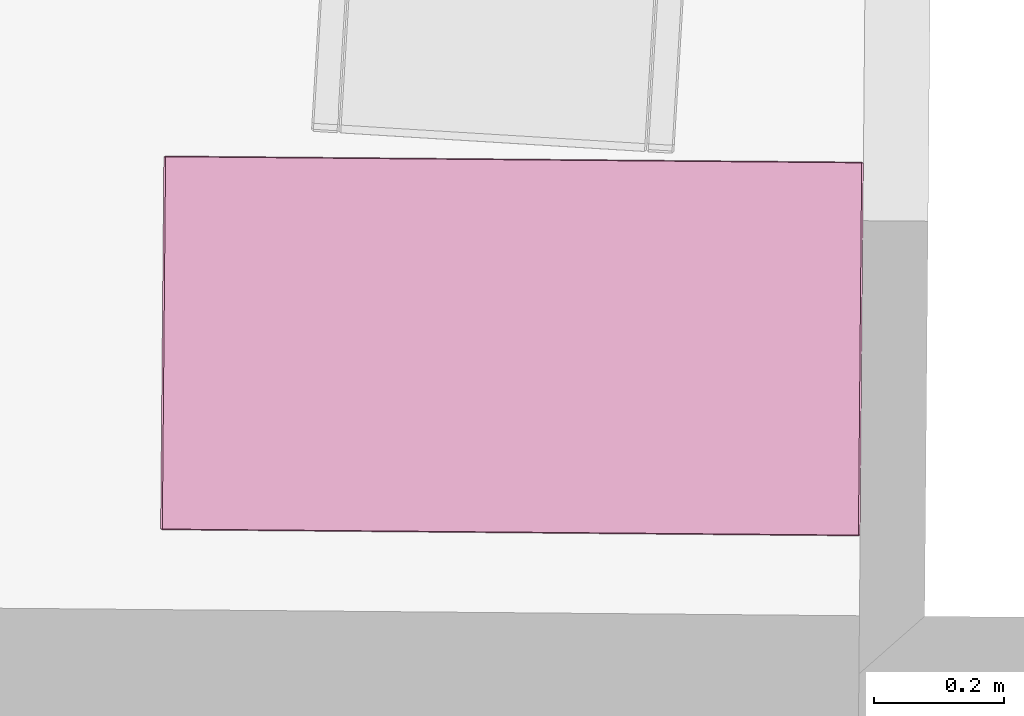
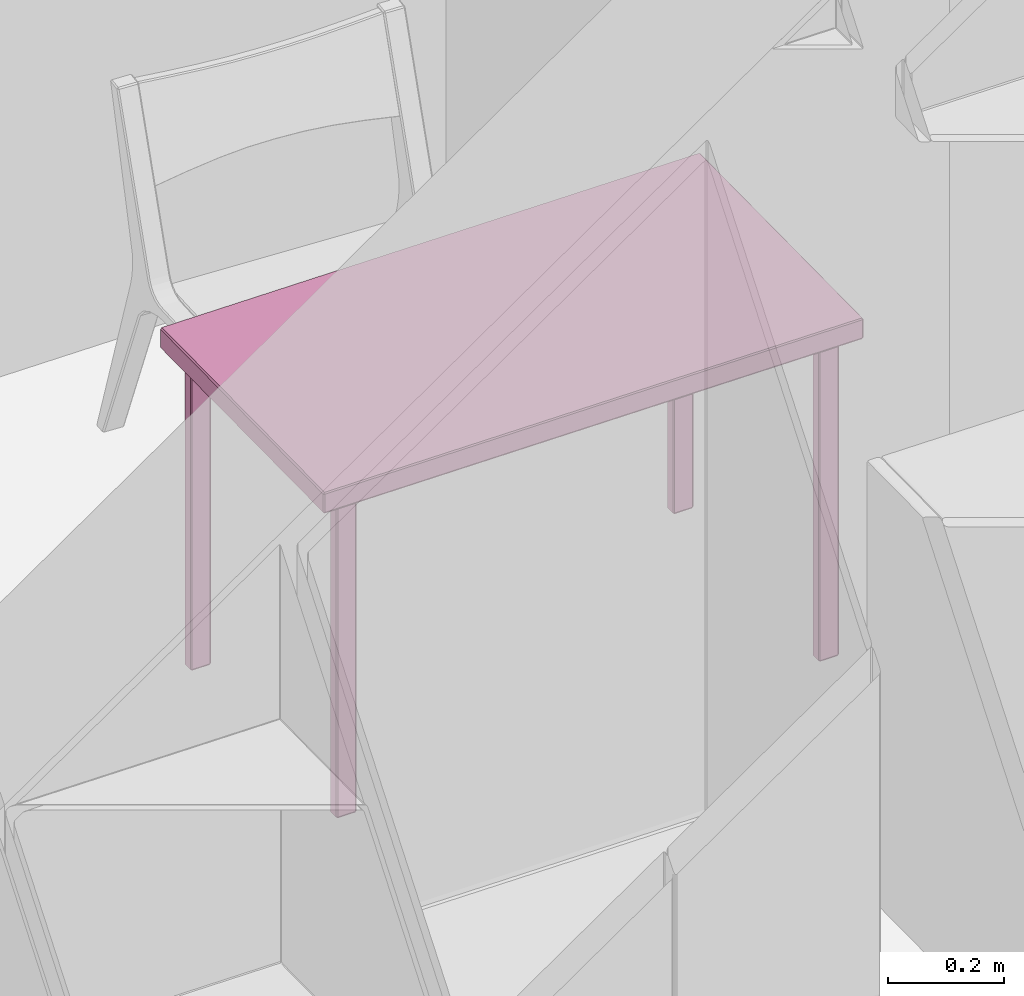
# One storey, part 7 of 7: 1 furniture element.
"""IFC4 building model written with IfcOpenShell, lengths in metres."""

from ifc_helpers import new_model, si_unit, direction, frame, origin_with_axes, place, context, project, spatial, polygons, type_object, element, save


model = new_model("IFC4")

# Units and contexts
model_context = context("Model", 3, precision=1e-05, world=origin_with_axes(), true_north=direction((-0.077, 0.997, 0.0)))
ifc_project = project(units=[si_unit("AREAUNIT", "SQUARE_METRE"), si_unit("LENGTHUNIT", "METRE")], contexts=[model_context])

# Site, building, storey, space
site_placement = place(None, origin_with_axes())
site = spatial("IfcSite", under=ifc_project, at=site_placement, Name="Site", CompositionType="ELEMENT")
building_placement = place(site_placement, origin_with_axes())
building = spatial("IfcBuilding", under=site, at=building_placement, Name="Building", CompositionType="ELEMENT")
storey_placement = place(building_placement, frame((0.0, 0.0, 2.86083245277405), z_axis=(0.0, 0.0, 1.0), x_axis=(1.0, 0.0, 0.0)))
storey = spatial("IfcBuildingStorey", under=building, at=storey_placement, Name="Story 1", CompositionType="ELEMENT", Elevation=2.86083245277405)
space_placement = place(storey_placement, frame((7.15167292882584, -1.61053688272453, 0.0), z_axis=(0.0, 0.0, 1.0), x_axis=(1.0, 0.0, 0.0)))
space = spatial("IfcSpace", under=storey, at=space_placement, Name="008", CompositionType="ELEMENT")

# Furniture
furniture_type = type_object("IfcFurnitureType", Name="44e54273-e89d-467f-87bd-4b55ef6c3ddf", AssemblyPlace="NOTDEFINED", PredefinedType="USERDEFINED")
furniture_placement = place(space_placement, frame((-0.532959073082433, 0.413190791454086, 0.356590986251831), z_axis=(0.0, 0.0, 0.999999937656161), x_axis=(0.0087854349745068, 0.99996137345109, 0.0)))
element("IfcFurniture", 1, at=furniture_placement, inside=space, type_object=furniture_type, Name="Table", ObjectType="Table", PredefinedType="USERDEFINED", context=model_context, shape_type="Tessellation", body=[
    polygons([(0.2855, 0.5366, 0.3152), (-0.2855, 0.5366, 0.3152), (0.2855, 0.5366, 0.3534), (-0.2855, 0.5366, 0.3534), (0.2855, 0.5366, 0.3534), (-0.2855, 0.5366, 0.3152), (0.2447, -0.4968, 0.3232), (0.2447, -0.4616, 0.3232), (0.2447, -0.4968, -0.3534), (0.2447, -0.4616, -0.3534), (0.2447, -0.4968, -0.3534), (0.2447, -0.4616, 0.3232), (0.265, -0.4995, 0.3232), (0.2462, -0.4995, 0.3232), (0.265, -0.4995, -0.3534), (0.2462, -0.4995, -0.3534), (0.265, -0.4995, -0.3534), (0.2462, -0.4995, 0.3232), (0.2664, -0.4616, 0.3232), (0.2664, -0.4968, 0.3232), (0.2664, -0.4616, -0.3534), (0.2664, -0.4968, -0.3534), (0.2664, -0.4616, -0.3534), (0.2664, -0.4968, 0.3232), (0.2462, -0.4589, 0.3232), (0.265, -0.4589, 0.3232), (0.2462, -0.4589, -0.3534), (0.265, -0.4589, -0.3534), (0.2462, -0.4589, -0.3534), (0.265, -0.4589, 0.3232), (0.2447, 0.4968, 0.3232), (0.2447, 0.4968, -0.3534), (0.2447, 0.4616, 0.3232), (0.2447, 0.4616, -0.3534), (0.2447, 0.4616, 0.3232), (0.2447, 0.4968, -0.3534), (0.265, 0.4995, 0.3232), (0.265, 0.4995, -0.3534), (0.2462, 0.4995, 0.3232), (0.2462, 0.4995, -0.3534), (0.2462, 0.4995, 0.3232), (0.265, 0.4995, -0.3534), (0.2664, 0.4616, 0.3232), (0.2664, 0.4616, -0.3534), (0.2664, 0.4968, 0.3232), (0.2664, 0.4968, -0.3534), (0.2664, 0.4968, 0.3232), (0.2664, 0.4616, -0.3534), (0.2462, 0.4589, 0.3232), (0.2462, 0.4589, -0.3534), (0.265, 0.4589, 0.3232), (0.265, 0.4589, -0.3534), (0.265, 0.4589, 0.3232), (0.2462, 0.4589, -0.3534), (0.2869, 0.5339, 0.3152), (0.2869, 0.5339, 0.3534), (0.2869, -0.5339, 0.3152), (0.2869, -0.5339, 0.3534), (0.2869, -0.5339, 0.3152), (0.2869, 0.5339, 0.3534), (-0.2869, 0.5339, 0.3534), (-0.2869, 0.5339, 0.3152), (-0.2869, -0.5339, 0.3534), (-0.2869, -0.5339, 0.3152), (-0.2869, -0.5339, 0.3534), (-0.2869, 0.5339, 0.3152), (-0.2447, -0.4968, 0.3232), (-0.2447, -0.4968, -0.3534), (-0.2447, -0.4616, 0.3232), (-0.2447, -0.4616, -0.3534), (-0.2447, -0.4616, 0.3232), (-0.2447, -0.4968, -0.3534), (-0.265, -0.4995, 0.3232), (-0.265, -0.4995, -0.3534), (-0.2462, -0.4995, 0.3232), (-0.2462, -0.4995, -0.3534), (-0.2462, -0.4995, 0.3232), (-0.265, -0.4995, -0.3534), (-0.2664, -0.4616, 0.3232), (-0.2664, -0.4616, -0.3534), (-0.2664, -0.4968, 0.3232), (-0.2664, -0.4968, -0.3534), (-0.2664, -0.4968, 0.3232), (-0.2664, -0.4616, -0.3534), (-0.2462, -0.4589, 0.3232), (-0.2462, -0.4589, -0.3534), (-0.265, -0.4589, 0.3232), (-0.265, -0.4589, -0.3534), (-0.265, -0.4589, 0.3232), (-0.2462, -0.4589, -0.3534), (-0.2447, 0.4968, 0.3232), (-0.2447, 0.4616, 0.3232), (-0.2447, 0.4968, -0.3534), (-0.2447, 0.4616, -0.3534), (-0.2447, 0.4968, -0.3534), (-0.2447, 0.4616, 0.3232), (-0.265, 0.4995, 0.3232), (-0.2462, 0.4995, 0.3232), (-0.265, 0.4995, -0.3534), (-0.2462, 0.4995, -0.3534), (-0.265, 0.4995, -0.3534), (-0.2462, 0.4995, 0.3232), (-0.2664, 0.4616, 0.3232), (-0.2664, 0.4968, 0.3232), (-0.2664, 0.4616, -0.3534), (-0.2664, 0.4968, -0.3534), (-0.2664, 0.4616, -0.3534), (-0.2664, 0.4968, 0.3232), (-0.2462, 0.4589, 0.3232), (-0.265, 0.4589, 0.3232), (-0.2462, 0.4589, -0.3534), (-0.265, 0.4589, -0.3534), (-0.2462, 0.4589, -0.3534), (-0.265, 0.4589, 0.3232), (-0.2855, 0.5339, 0.3566), (-0.2855, -0.5339, 0.3566), (0.2855, 0.5339, 0.3566), (0.2855, -0.5339, 0.3566), (0.2855, 0.5339, 0.3566), (-0.2855, -0.5339, 0.3566), (0.2855, -0.5366, 0.3152), (0.2855, -0.5366, 0.3534), (-0.2855, -0.5366, 0.3152), (-0.2855, -0.5366, 0.3534), (-0.2855, -0.5366, 0.3152), (0.2855, -0.5366, 0.3534), (0.2855, -0.5339, 0.3121), (-0.2855, -0.5339, 0.3121), (0.2855, 0.5339, 0.3121), (-0.2855, 0.5339, 0.3121), (0.2855, 0.5339, 0.3121), (-0.2855, -0.5339, 0.3121), (0.265, -0.4968, 0.3264), (0.265, -0.4616, 0.3264), (0.2462, -0.4968, 0.3264), (0.2462, -0.4616, 0.3264), (0.2462, -0.4968, 0.3264), (0.265, -0.4616, 0.3264), (0.265, -0.4616, -0.3566), (0.265, -0.4968, -0.3566), (0.2462, -0.4616, -0.3566), (0.2462, -0.4968, -0.3566), (0.2462, -0.4616, -0.3566), (0.265, -0.4968, -0.3566), (0.265, 0.4968, -0.3566), (0.265, 0.4616, -0.3566), (0.2462, 0.4968, -0.3566), (0.2462, 0.4616, -0.3566), (0.2462, 0.4968, -0.3566), (0.265, 0.4616, -0.3566), (0.265, 0.4616, 0.3264), (0.265, 0.4968, 0.3264), (0.2462, 0.4616, 0.3264), (0.2462, 0.4968, 0.3264), (0.2462, 0.4616, 0.3264), (0.265, 0.4968, 0.3264), (-0.265, -0.4968, -0.3566), (-0.265, -0.4616, -0.3566), (-0.2462, -0.4968, -0.3566), (-0.2462, -0.4616, -0.3566), (-0.2462, -0.4968, -0.3566), (-0.265, -0.4616, -0.3566), (-0.265, -0.4616, 0.3264), (-0.265, -0.4968, 0.3264), (-0.2462, -0.4616, 0.3264), (-0.2462, -0.4968, 0.3264), (-0.2462, -0.4616, 0.3264), (-0.265, -0.4968, 0.3264), (-0.265, 0.4968, 0.3264), (-0.265, 0.4616, 0.3264), (-0.2462, 0.4968, 0.3264), (-0.2462, 0.4616, 0.3264), (-0.2462, 0.4968, 0.3264), (-0.265, 0.4616, 0.3264), (-0.265, 0.4616, -0.3566), (-0.265, 0.4968, -0.3566), (-0.2462, 0.4616, -0.3566), (-0.2462, 0.4968, -0.3566), (-0.2462, 0.4616, -0.3566), (-0.265, 0.4968, -0.3566), (-0.2855, 0.5339, 0.3566), (-0.2855, 0.5366, 0.3534), (-0.2869, 0.5339, 0.3534), (0.2462, -0.4616, -0.3566), (0.2447, -0.4616, -0.3534), (0.2462, -0.4589, -0.3534), (0.2462, -0.4968, -0.3566), (0.2462, -0.4995, -0.3534), (0.2447, -0.4968, -0.3534), (0.265, -0.4968, -0.3566), (0.2664, -0.4968, -0.3534), (0.265, -0.4995, -0.3534), (0.265, -0.4616, -0.3566), (0.265, -0.4589, -0.3534), (0.2664, -0.4616, -0.3534), (0.2462, -0.4616, 0.3264), (0.2462, -0.4589, 0.3232), (0.2447, -0.4616, 0.3232), (0.2462, 0.4589, -0.3534), (0.2447, 0.4616, -0.3534), (0.2462, 0.4616, -0.3566), (0.2462, 0.4968, 0.3264), (0.2462, 0.4995, 0.3232), (0.2447, 0.4968, 0.3232), (0.265, 0.4968, 0.3264), (0.2664, 0.4968, 0.3232), (0.265, 0.4995, 0.3232), (0.265, 0.4616, 0.3264), (0.265, 0.4589, 0.3232), (0.2664, 0.4616, 0.3232), (0.2855, -0.5366, 0.3534), (0.2869, -0.5339, 0.3534), (0.2855, -0.5339, 0.3566), (0.2855, 0.5339, 0.3566), (0.2869, 0.5339, 0.3534), (0.2855, 0.5366, 0.3534), (-0.2855, -0.5366, 0.3152), (-0.2869, -0.5339, 0.3152), (-0.2855, -0.5339, 0.3121), (-0.2855, 0.5339, 0.3121), (-0.2869, 0.5339, 0.3152), (-0.2855, 0.5366, 0.3152), (-0.2462, -0.4589, -0.3534), (-0.2447, -0.4616, -0.3534), (-0.2462, -0.4616, -0.3566), (-0.2462, -0.4968, 0.3264), (-0.2462, -0.4995, 0.3232), (-0.2447, -0.4968, 0.3232), (-0.265, -0.4968, 0.3264), (-0.2664, -0.4968, 0.3232), (-0.265, -0.4995, 0.3232), (-0.265, -0.4616, 0.3264), (-0.265, -0.4589, 0.3232), (-0.2664, -0.4616, 0.3232), (-0.2462, 0.4616, -0.3566), (-0.2447, 0.4616, -0.3534), (-0.2462, 0.4589, -0.3534), (-0.2462, 0.4968, -0.3566), (-0.2462, 0.4995, -0.3534), (-0.2447, 0.4968, -0.3534), (-0.265, 0.4968, -0.3566), (-0.2664, 0.4968, -0.3534), (-0.265, 0.4995, -0.3534), (-0.265, 0.4616, -0.3566), (-0.265, 0.4589, -0.3534), (-0.2664, 0.4616, -0.3534), (-0.2462, 0.4616, 0.3264), (-0.2462, 0.4589, 0.3232), (-0.2447, 0.4616, 0.3232), (-0.2855, -0.5366, 0.3534), (-0.2855, -0.5339, 0.3566), (-0.2869, -0.5339, 0.3534), (0.2855, -0.5366, 0.3152), (0.2855, -0.5339, 0.3121), (0.2869, -0.5339, 0.3152), (0.2869, 0.5339, 0.3152), (0.2855, 0.5339, 0.3121), (0.2855, 0.5366, 0.3152), (0.265, -0.4589, 0.3232), (0.265, -0.4616, 0.3264), (0.2664, -0.4616, 0.3232), (0.2664, -0.4968, 0.3232), (0.265, -0.4968, 0.3264), (0.265, -0.4995, 0.3232), (0.2462, -0.4995, 0.3232), (0.2462, -0.4968, 0.3264), (0.2447, -0.4968, 0.3232), (0.265, 0.4589, -0.3534), (0.265, 0.4616, -0.3566), (0.2664, 0.4616, -0.3534), (0.2664, 0.4968, -0.3534), (0.265, 0.4968, -0.3566), (0.265, 0.4995, -0.3534), (0.2462, 0.4995, -0.3534), (0.2462, 0.4968, -0.3566), (0.2447, 0.4968, -0.3534), (0.2462, 0.4589, 0.3232), (0.2462, 0.4616, 0.3264), (0.2447, 0.4616, 0.3232), (-0.265, -0.4589, -0.3534), (-0.265, -0.4616, -0.3566), (-0.2664, -0.4616, -0.3534), (-0.2664, -0.4968, -0.3534), (-0.265, -0.4968, -0.3566), (-0.265, -0.4995, -0.3534), (-0.2462, -0.4995, -0.3534), (-0.2462, -0.4968, -0.3566), (-0.2447, -0.4968, -0.3534), (-0.2462, -0.4589, 0.3232), (-0.2462, -0.4616, 0.3264), (-0.2447, -0.4616, 0.3232), (-0.265, 0.4589, 0.3232), (-0.265, 0.4616, 0.3264), (-0.2664, 0.4616, 0.3232), (-0.2664, 0.4968, 0.3232), (-0.265, 0.4968, 0.3264), (-0.265, 0.4995, 0.3232), (-0.2462, 0.4995, 0.3232), (-0.2462, 0.4968, 0.3264), (-0.2447, 0.4968, 0.3232), (-0.2855, 0.5366, 0.3534), (-0.2855, 0.5366, 0.3152), (-0.2869, 0.5339, 0.3534), (-0.2869, 0.5339, 0.3152), (-0.2869, 0.5339, 0.3534), (-0.2855, 0.5366, 0.3152), (-0.2855, 0.5366, 0.3152), (0.2855, 0.5366, 0.3152), (-0.2855, 0.5339, 0.3121), (0.2855, 0.5339, 0.3121), (-0.2855, 0.5339, 0.3121), (0.2855, 0.5366, 0.3152), (0.2855, 0.5366, 0.3152), (0.2855, 0.5366, 0.3534), (0.2869, 0.5339, 0.3152), (0.2869, 0.5339, 0.3534), (0.2869, 0.5339, 0.3152), (0.2855, 0.5366, 0.3534), (0.2855, 0.5366, 0.3534), (-0.2855, 0.5366, 0.3534), (0.2855, 0.5339, 0.3566), (-0.2855, 0.5339, 0.3566), (0.2855, 0.5339, 0.3566), (-0.2855, 0.5366, 0.3534), (0.2447, -0.4616, -0.3534), (0.2447, -0.4616, 0.3232), (0.2462, -0.4589, -0.3534), (0.2462, -0.4589, 0.3232), (0.2462, -0.4589, -0.3534), (0.2447, -0.4616, 0.3232), (0.2447, -0.4616, 0.3232), (0.2447, -0.4968, 0.3232), (0.2462, -0.4616, 0.3264), (0.2462, -0.4968, 0.3264), (0.2462, -0.4616, 0.3264), (0.2447, -0.4968, 0.3232), (0.2447, -0.4968, 0.3232), (0.2447, -0.4968, -0.3534), (0.2462, -0.4995, 0.3232), (0.2462, -0.4995, -0.3534), (0.2462, -0.4995, 0.3232), (0.2447, -0.4968, -0.3534), (0.2447, -0.4968, -0.3534), (0.2447, -0.4616, -0.3534), (0.2462, -0.4968, -0.3566), (0.2462, -0.4616, -0.3566), (0.2462, -0.4968, -0.3566), (0.2447, -0.4616, -0.3534), (0.2462, -0.4995, 0.3232), (0.265, -0.4995, 0.3232), (0.2462, -0.4968, 0.3264), (0.265, -0.4968, 0.3264), (0.2462, -0.4968, 0.3264), (0.265, -0.4995, 0.3232), (0.265, -0.4995, 0.3232), (0.265, -0.4995, -0.3534), (0.2664, -0.4968, 0.3232), (0.2664, -0.4968, -0.3534), (0.2664, -0.4968, 0.3232), (0.265, -0.4995, -0.3534), (0.265, -0.4995, -0.3534), (0.2462, -0.4995, -0.3534), (0.265, -0.4968, -0.3566), (0.2462, -0.4968, -0.3566), (0.265, -0.4968, -0.3566), (0.2462, -0.4995, -0.3534), (0.2664, -0.4968, 0.3232), (0.2664, -0.4616, 0.3232), (0.265, -0.4968, 0.3264), (0.265, -0.4616, 0.3264), (0.265, -0.4968, 0.3264), (0.2664, -0.4616, 0.3232), (0.2664, -0.4616, 0.3232), (0.2664, -0.4616, -0.3534), (0.265, -0.4589, 0.3232), (0.265, -0.4589, -0.3534), (0.265, -0.4589, 0.3232), (0.2664, -0.4616, -0.3534), (0.2664, -0.4616, -0.3534), (0.2664, -0.4968, -0.3534), (0.265, -0.4616, -0.3566), (0.265, -0.4968, -0.3566), (0.265, -0.4616, -0.3566), (0.2664, -0.4968, -0.3534), (0.265, -0.4589, 0.3232), (0.2462, -0.4589, 0.3232), (0.265, -0.4616, 0.3264), (0.2462, -0.4616, 0.3264), (0.265, -0.4616, 0.3264), (0.2462, -0.4589, 0.3232), (0.2462, -0.4589, -0.3534), (0.265, -0.4589, -0.3534), (0.2462, -0.4616, -0.3566), (0.265, -0.4616, -0.3566), (0.2462, -0.4616, -0.3566), (0.265, -0.4589, -0.3534), (0.2447, 0.4616, -0.3534), (0.2447, 0.4968, -0.3534), (0.2462, 0.4616, -0.3566), (0.2462, 0.4968, -0.3566), (0.2462, 0.4616, -0.3566), (0.2447, 0.4968, -0.3534), (0.2447, 0.4968, -0.3534), (0.2447, 0.4968, 0.3232), (0.2462, 0.4995, -0.3534), (0.2462, 0.4995, 0.3232), (0.2462, 0.4995, -0.3534), (0.2447, 0.4968, 0.3232), (0.2447, 0.4968, 0.3232), (0.2447, 0.4616, 0.3232), (0.2462, 0.4968, 0.3264), (0.2462, 0.4616, 0.3264), (0.2462, 0.4968, 0.3264), (0.2447, 0.4616, 0.3232), (0.2447, 0.4616, 0.3232), (0.2447, 0.4616, -0.3534), (0.2462, 0.4589, 0.3232), (0.2462, 0.4589, -0.3534), (0.2462, 0.4589, 0.3232), (0.2447, 0.4616, -0.3534), (0.2462, 0.4995, -0.3534), (0.265, 0.4995, -0.3534), (0.2462, 0.4968, -0.3566), (0.265, 0.4968, -0.3566), (0.2462, 0.4968, -0.3566), (0.265, 0.4995, -0.3534), (0.265, 0.4995, -0.3534), (0.265, 0.4995, 0.3232), (0.2664, 0.4968, -0.3534), (0.2664, 0.4968, 0.3232), (0.2664, 0.4968, -0.3534), (0.265, 0.4995, 0.3232), (0.265, 0.4995, 0.3232), (0.2462, 0.4995, 0.3232), (0.265, 0.4968, 0.3264), (0.2462, 0.4968, 0.3264), (0.265, 0.4968, 0.3264), (0.2462, 0.4995, 0.3232), (0.2664, 0.4968, -0.3534), (0.2664, 0.4616, -0.3534), (0.265, 0.4968, -0.3566), (0.265, 0.4616, -0.3566), (0.265, 0.4968, -0.3566), (0.2664, 0.4616, -0.3534), (0.2664, 0.4616, -0.3534), (0.2664, 0.4616, 0.3232), (0.265, 0.4589, -0.3534), (0.265, 0.4589, 0.3232), (0.265, 0.4589, -0.3534), (0.2664, 0.4616, 0.3232), (0.2664, 0.4616, 0.3232), (0.2664, 0.4968, 0.3232), (0.265, 0.4616, 0.3264), (0.265, 0.4968, 0.3264), (0.265, 0.4616, 0.3264), (0.2664, 0.4968, 0.3232), (0.265, 0.4589, -0.3534), (0.2462, 0.4589, -0.3534), (0.265, 0.4616, -0.3566), (0.2462, 0.4616, -0.3566), (0.265, 0.4616, -0.3566), (0.2462, 0.4589, -0.3534), (0.2462, 0.4589, 0.3232), (0.265, 0.4589, 0.3232), (0.2462, 0.4616, 0.3264), (0.265, 0.4616, 0.3264), (0.2462, 0.4616, 0.3264), (0.265, 0.4589, 0.3232), (0.2869, -0.5339, 0.3534), (0.2869, 0.5339, 0.3534), (0.2855, -0.5339, 0.3566), (0.2855, 0.5339, 0.3566), (0.2855, -0.5339, 0.3566), (0.2869, 0.5339, 0.3534), (0.2869, 0.5339, 0.3152), (0.2869, -0.5339, 0.3152), (0.2855, 0.5339, 0.3121), (0.2855, -0.5339, 0.3121), (0.2855, 0.5339, 0.3121), (0.2869, -0.5339, 0.3152), (0.2869, -0.5339, 0.3152), (0.2869, -0.5339, 0.3534), (0.2855, -0.5366, 0.3152), (0.2855, -0.5366, 0.3534), (0.2855, -0.5366, 0.3152), (0.2869, -0.5339, 0.3534), (-0.2869, -0.5339, 0.3152), (-0.2869, 0.5339, 0.3152), (-0.2855, -0.5339, 0.3121), (-0.2855, 0.5339, 0.3121), (-0.2855, -0.5339, 0.3121), (-0.2869, 0.5339, 0.3152), (-0.2869, 0.5339, 0.3534), (-0.2869, -0.5339, 0.3534), (-0.2855, 0.5339, 0.3566), (-0.2855, -0.5339, 0.3566), (-0.2855, 0.5339, 0.3566), (-0.2869, -0.5339, 0.3534), (-0.2869, -0.5339, 0.3534), (-0.2869, -0.5339, 0.3152), (-0.2855, -0.5366, 0.3534), (-0.2855, -0.5366, 0.3152), (-0.2855, -0.5366, 0.3534), (-0.2869, -0.5339, 0.3152), (-0.2447, -0.4616, -0.3534), (-0.2447, -0.4968, -0.3534), (-0.2462, -0.4616, -0.3566), (-0.2462, -0.4968, -0.3566), (-0.2462, -0.4616, -0.3566), (-0.2447, -0.4968, -0.3534), (-0.2447, -0.4968, -0.3534), (-0.2447, -0.4968, 0.3232), (-0.2462, -0.4995, -0.3534), (-0.2462, -0.4995, 0.3232), (-0.2462, -0.4995, -0.3534), (-0.2447, -0.4968, 0.3232), (-0.2447, -0.4968, 0.3232), (-0.2447, -0.4616, 0.3232), (-0.2462, -0.4968, 0.3264), (-0.2462, -0.4616, 0.3264), (-0.2462, -0.4968, 0.3264), (-0.2447, -0.4616, 0.3232), (-0.2447, -0.4616, 0.3232), (-0.2447, -0.4616, -0.3534), (-0.2462, -0.4589, 0.3232), (-0.2462, -0.4589, -0.3534), (-0.2462, -0.4589, 0.3232), (-0.2447, -0.4616, -0.3534), (-0.2462, -0.4995, -0.3534), (-0.265, -0.4995, -0.3534), (-0.2462, -0.4968, -0.3566), (-0.265, -0.4968, -0.3566), (-0.2462, -0.4968, -0.3566), (-0.265, -0.4995, -0.3534), (-0.265, -0.4995, -0.3534), (-0.265, -0.4995, 0.3232), (-0.2664, -0.4968, -0.3534), (-0.2664, -0.4968, 0.3232), (-0.2664, -0.4968, -0.3534), (-0.265, -0.4995, 0.3232), (-0.265, -0.4995, 0.3232), (-0.2462, -0.4995, 0.3232), (-0.265, -0.4968, 0.3264), (-0.2462, -0.4968, 0.3264), (-0.265, -0.4968, 0.3264), (-0.2462, -0.4995, 0.3232), (-0.2664, -0.4968, -0.3534), (-0.2664, -0.4616, -0.3534), (-0.265, -0.4968, -0.3566), (-0.265, -0.4616, -0.3566), (-0.265, -0.4968, -0.3566), (-0.2664, -0.4616, -0.3534), (-0.2664, -0.4616, -0.3534), (-0.2664, -0.4616, 0.3232), (-0.265, -0.4589, -0.3534), (-0.265, -0.4589, 0.3232), (-0.265, -0.4589, -0.3534), (-0.2664, -0.4616, 0.3232), (-0.2664, -0.4616, 0.3232), (-0.2664, -0.4968, 0.3232), (-0.265, -0.4616, 0.3264), (-0.265, -0.4968, 0.3264), (-0.265, -0.4616, 0.3264), (-0.2664, -0.4968, 0.3232), (-0.265, -0.4589, -0.3534), (-0.2462, -0.4589, -0.3534), (-0.265, -0.4616, -0.3566), (-0.2462, -0.4616, -0.3566), (-0.265, -0.4616, -0.3566), (-0.2462, -0.4589, -0.3534), (-0.2462, -0.4589, 0.3232), (-0.265, -0.4589, 0.3232), (-0.2462, -0.4616, 0.3264), (-0.265, -0.4616, 0.3264), (-0.2462, -0.4616, 0.3264), (-0.265, -0.4589, 0.3232), (-0.2447, 0.4616, -0.3534), (-0.2447, 0.4616, 0.3232), (-0.2462, 0.4589, -0.3534), (-0.2462, 0.4589, 0.3232), (-0.2462, 0.4589, -0.3534), (-0.2447, 0.4616, 0.3232), (-0.2447, 0.4616, 0.3232), (-0.2447, 0.4968, 0.3232), (-0.2462, 0.4616, 0.3264), (-0.2462, 0.4968, 0.3264), (-0.2462, 0.4616, 0.3264), (-0.2447, 0.4968, 0.3232), (-0.2447, 0.4968, 0.3232), (-0.2447, 0.4968, -0.3534), (-0.2462, 0.4995, 0.3232), (-0.2462, 0.4995, -0.3534), (-0.2462, 0.4995, 0.3232), (-0.2447, 0.4968, -0.3534), (-0.2447, 0.4968, -0.3534), (-0.2447, 0.4616, -0.3534), (-0.2462, 0.4968, -0.3566), (-0.2462, 0.4616, -0.3566), (-0.2462, 0.4968, -0.3566), (-0.2447, 0.4616, -0.3534), (-0.2462, 0.4995, 0.3232), (-0.265, 0.4995, 0.3232), (-0.2462, 0.4968, 0.3264), (-0.265, 0.4968, 0.3264), (-0.2462, 0.4968, 0.3264), (-0.265, 0.4995, 0.3232), (-0.265, 0.4995, 0.3232), (-0.265, 0.4995, -0.3534), (-0.2664, 0.4968, 0.3232), (-0.2664, 0.4968, -0.3534), (-0.2664, 0.4968, 0.3232), (-0.265, 0.4995, -0.3534), (-0.265, 0.4995, -0.3534), (-0.2462, 0.4995, -0.3534), (-0.265, 0.4968, -0.3566), (-0.2462, 0.4968, -0.3566), (-0.265, 0.4968, -0.3566), (-0.2462, 0.4995, -0.3534), (-0.2664, 0.4968, 0.3232), (-0.2664, 0.4616, 0.3232), (-0.265, 0.4968, 0.3264), (-0.265, 0.4616, 0.3264), (-0.265, 0.4968, 0.3264), (-0.2664, 0.4616, 0.3232), (-0.2664, 0.4616, 0.3232), (-0.2664, 0.4616, -0.3534), (-0.265, 0.4589, 0.3232), (-0.265, 0.4589, -0.3534), (-0.265, 0.4589, 0.3232), (-0.2664, 0.4616, -0.3534), (-0.2664, 0.4616, -0.3534), (-0.2664, 0.4968, -0.3534), (-0.265, 0.4616, -0.3566), (-0.265, 0.4968, -0.3566), (-0.265, 0.4616, -0.3566), (-0.2664, 0.4968, -0.3534), (-0.265, 0.4589, 0.3232), (-0.2462, 0.4589, 0.3232), (-0.265, 0.4616, 0.3264), (-0.2462, 0.4616, 0.3264), (-0.265, 0.4616, 0.3264), (-0.2462, 0.4589, 0.3232), (-0.2462, 0.4589, -0.3534), (-0.265, 0.4589, -0.3534), (-0.2462, 0.4616, -0.3566), (-0.265, 0.4616, -0.3566), (-0.2462, 0.4616, -0.3566), (-0.265, 0.4589, -0.3534), (0.2855, -0.5339, 0.3566), (-0.2855, -0.5339, 0.3566), (0.2855, -0.5366, 0.3534), (-0.2855, -0.5366, 0.3534), (0.2855, -0.5366, 0.3534), (-0.2855, -0.5339, 0.3566), (0.2855, -0.5366, 0.3152), (-0.2855, -0.5366, 0.3152), (0.2855, -0.5339, 0.3121), (-0.2855, -0.5339, 0.3121), (0.2855, -0.5339, 0.3121), (-0.2855, -0.5366, 0.3152)], [[[1, 2, 3]], [[4, 5, 6]], [[7, 8, 9]], [[10, 11, 12]], [[13, 14, 15]], [[16, 17, 18]], [[19, 20, 21]], [[22, 23, 24]], [[25, 26, 27]], [[28, 29, 30]], [[31, 32, 33]], [[34, 35, 36]], [[37, 38, 39]], [[40, 41, 42]], [[43, 44, 45]], [[46, 47, 48]], [[49, 50, 51]], [[52, 53, 54]], [[55, 56, 57]], [[58, 59, 60]], [[61, 62, 63]], [[64, 65, 66]], [[67, 68, 69]], [[70, 71, 72]], [[73, 74, 75]], [[76, 77, 78]], [[79, 80, 81]], [[82, 83, 84]], [[85, 86, 87]], [[88, 89, 90]], [[91, 92, 93]], [[94, 95, 96]], [[97, 98, 99]], [[100, 101, 102]], [[103, 104, 105]], [[106, 107, 108]], [[109, 110, 111]], [[112, 113, 114]], [[115, 116, 117]], [[118, 119, 120]], [[121, 122, 123]], [[124, 125, 126]], [[127, 128, 129]], [[130, 131, 132]], [[133, 134, 135]], [[136, 137, 138]], [[139, 140, 141]], [[142, 143, 144]], [[145, 146, 147]], [[148, 149, 150]], [[151, 152, 153]], [[154, 155, 156]], [[157, 158, 159]], [[160, 161, 162]], [[163, 164, 165]], [[166, 167, 168]], [[169, 170, 171]], [[172, 173, 174]], [[175, 176, 177]], [[178, 179, 180]], [[181, 182, 183]], [[184, 185, 186]], [[187, 188, 189]], [[190, 191, 192]], [[193, 194, 195]], [[196, 197, 198]], [[199, 200, 201]], [[202, 203, 204]], [[205, 206, 207]], [[208, 209, 210]], [[211, 212, 213]], [[214, 215, 216]], [[217, 218, 219]], [[220, 221, 222]], [[223, 224, 225]], [[226, 227, 228]], [[229, 230, 231]], [[232, 233, 234]], [[235, 236, 237]], [[238, 239, 240]], [[241, 242, 243]], [[244, 245, 246]], [[247, 248, 249]], [[250, 251, 252]], [[253, 254, 255]], [[256, 257, 258]], [[259, 260, 261]], [[262, 263, 264]], [[265, 266, 267]], [[268, 269, 270]], [[271, 272, 273]], [[274, 275, 276]], [[277, 278, 279]], [[280, 281, 282]], [[283, 284, 285]], [[286, 287, 288]], [[289, 290, 291]], [[292, 293, 294]], [[295, 296, 297]], [[298, 299, 300]], [[301, 302, 303]], [[304, 305, 306]], [[307, 308, 309]], [[310, 311, 312]], [[313, 314, 315]], [[316, 317, 318]], [[319, 320, 321]], [[322, 323, 324]], [[325, 326, 327]], [[328, 329, 330]], [[331, 332, 333]], [[334, 335, 336]], [[337, 338, 339]], [[340, 341, 342]], [[343, 344, 345]], [[346, 347, 348]], [[349, 350, 351]], [[352, 353, 354]], [[355, 356, 357]], [[358, 359, 360]], [[361, 362, 363]], [[364, 365, 366]], [[367, 368, 369]], [[370, 371, 372]], [[373, 374, 375]], [[376, 377, 378]], [[379, 380, 381]], [[382, 383, 384]], [[385, 386, 387]], [[388, 389, 390]], [[391, 392, 393]], [[394, 395, 396]], [[397, 398, 399]], [[400, 401, 402]], [[403, 404, 405]], [[406, 407, 408]], [[409, 410, 411]], [[412, 413, 414]], [[415, 416, 417]], [[418, 419, 420]], [[421, 422, 423]], [[424, 425, 426]], [[427, 428, 429]], [[430, 431, 432]], [[433, 434, 435]], [[436, 437, 438]], [[439, 440, 441]], [[442, 443, 444]], [[445, 446, 447]], [[448, 449, 450]], [[451, 452, 453]], [[454, 455, 456]], [[457, 458, 459]], [[460, 461, 462]], [[463, 464, 465]], [[466, 467, 468]], [[469, 470, 471]], [[472, 473, 474]], [[475, 476, 477]], [[478, 479, 480]], [[481, 482, 483]], [[484, 485, 486]], [[487, 488, 489]], [[490, 491, 492]], [[493, 494, 495]], [[496, 497, 498]], [[499, 500, 501]], [[502, 503, 504]], [[505, 506, 507]], [[508, 509, 510]], [[511, 512, 513]], [[514, 515, 516]], [[517, 518, 519]], [[520, 521, 522]], [[523, 524, 525]], [[526, 527, 528]], [[529, 530, 531]], [[532, 533, 534]], [[535, 536, 537]], [[538, 539, 540]], [[541, 542, 543]], [[544, 545, 546]], [[547, 548, 549]], [[550, 551, 552]], [[553, 554, 555]], [[556, 557, 558]], [[559, 560, 561]], [[562, 563, 564]], [[565, 566, 567]], [[568, 569, 570]], [[571, 572, 573]], [[574, 575, 576]], [[577, 578, 579]], [[580, 581, 582]], [[583, 584, 585]], [[586, 587, 588]], [[589, 590, 591]], [[592, 593, 594]], [[595, 596, 597]], [[598, 599, 600]], [[601, 602, 603]], [[604, 605, 606]], [[607, 608, 609]], [[610, 611, 612]], [[613, 614, 615]], [[616, 617, 618]], [[619, 620, 621]], [[622, 623, 624]], [[625, 626, 627]], [[628, 629, 630]], [[631, 632, 633]], [[634, 635, 636]], [[637, 638, 639]], [[640, 641, 642]], [[643, 644, 645]], [[646, 647, 648]], [[649, 650, 651]], [[652, 653, 654]], [[655, 656, 657]], [[658, 659, 660]]]),
])

save(model, "model.ifc")
